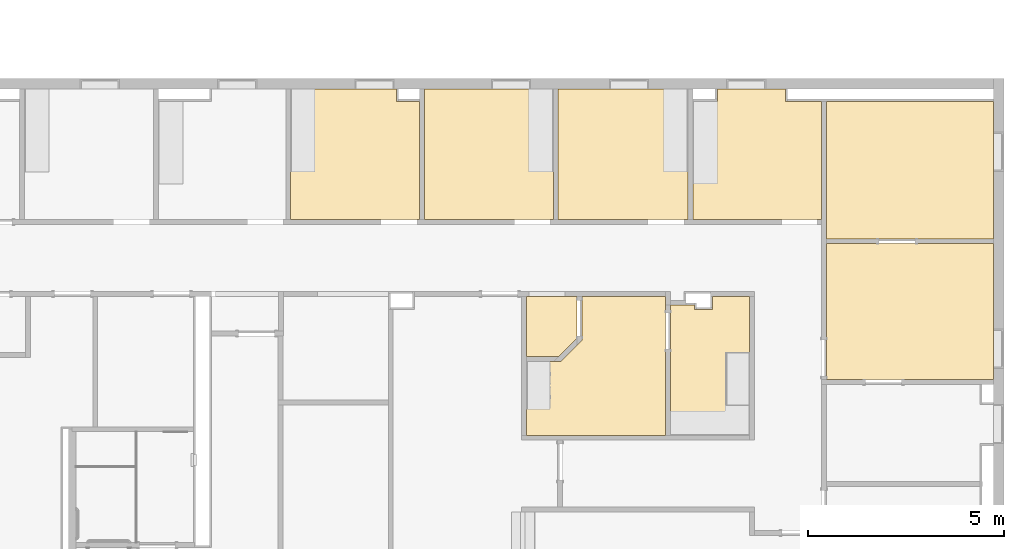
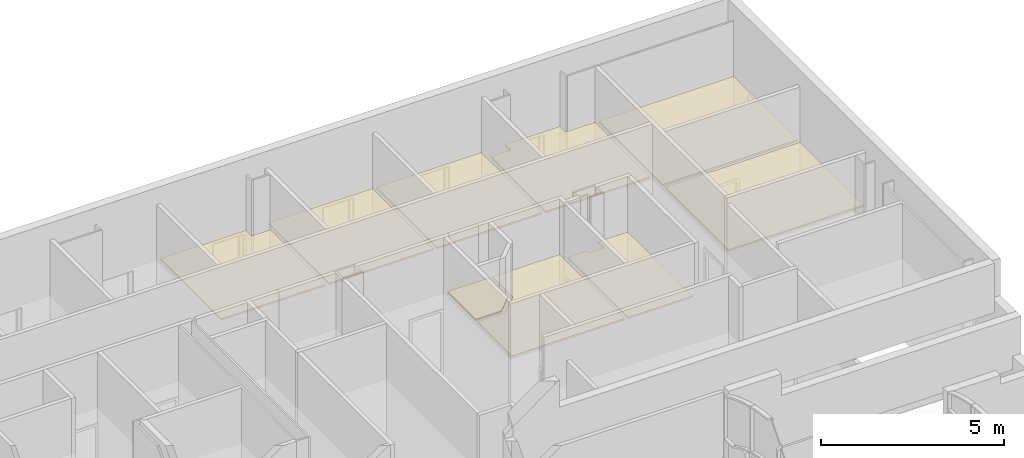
# One storey, part 31 of 47: 9 coverings.
"""IFC2X3 building model written with IfcOpenShell, lengths in metres."""

import ifcopenshell
import ifcopenshell.guid

model = None  # the IFC model being written
_history = None  # IfcOwnerHistory: only IFC2X3 demands one
_inside = {}  # id of a spatial element -> (the spatial element, [elements in it])
_under = {}  # id of a project, library or spatial element -> (it, [spatial elements below it])
_declared = {}  # id of a project -> (the project, [libraries it declares])
_typed = {}  # id of a type object -> (the type object, [elements of that type])
_made_of = {}  # id of a material, layer set ... -> (it, [elements and type objects made of it])


def new_model(schema):
    """Start an empty IFC model of exactly this schema.

    Asked for "IFC4X3", IfcOpenShell would pick the latest addendum, in which some entities
    have other attributes; the version numbers below select the first issue.
    IFC2X3 requires an IfcOwnerHistory on every rooted entity: one is made here for all.
    """
    global model, _history
    if schema == "IFC4X3":
        model = ifcopenshell.file(schema_version=(4, 3, 0, 0))
    else:
        model = ifcopenshell.file(schema=schema)
    _inside.clear()
    _under.clear()
    _declared.clear()
    _typed.clear()
    _made_of.clear()
    _history = None
    if model.schema == "IFC2X3":
        org = make("IfcOrganization", Name="unknown")
        user = make(
            "IfcPersonAndOrganization",
            ThePerson=make("IfcPerson", FamilyName="unknown"),
            TheOrganization=org,
        )
        app = make(
            "IfcApplication",
            ApplicationDeveloper=org,
            Version="unknown",
            ApplicationFullName="unknown",
            ApplicationIdentifier="unknown",
        )
        _history = make(
            "IfcOwnerHistory",
            OwningUser=user,
            OwningApplication=app,
            ChangeAction="ADDED",
            CreationDate=0,
        )
    return model


def make(cls, **values):
    """One entity of the class cls with the attributes given. An attribute that is None is left unset."""
    return model.create_entity(
        cls, **{name: value for name, value in values.items() if value is not None}
    )


def entity(cls, *values):
    """Any entity or typed value of the class cls, its attributes in the order of the schema. None: left unset."""
    e = model.create_entity(cls)
    for i, value in enumerate(values):
        if value is not None:
            e[i] = value
    return e


def rooted(cls, **values):
    """An entity with a GlobalId (a new one), such as an element, a storey or a relation."""
    return make(cls, GlobalId=ifcopenshell.guid.new(), OwnerHistory=_history, **values)


def si_unit(unit_type, name, prefix=None):
    """IfcSIUnit, for example si_unit("LENGTHUNIT", "METRE", prefix="MILLI")."""
    return make("IfcSIUnit", UnitType=unit_type, Prefix=prefix, Name=name)


def converted_unit(unit_type, name, factor, base, dimensions=None, offset=None):
    """IfcConversionBasedUnit, such as the inch: factor (a typed value) times the base unit."""
    return make(
        "IfcConversionBasedUnit"
        if offset is None
        else "IfcConversionBasedUnitWithOffset",
        ConversionOffset=offset,
        Dimensions=None
        if dimensions is None
        else entity("IfcDimensionalExponents", *dimensions),
        UnitType=unit_type,
        Name=name,
        ConversionFactor=make(
            "IfcMeasureWithUnit", ValueComponent=factor, UnitComponent=base
        ),
    )


def assignment(units):
    """IfcUnitAssignment: the units of a project."""
    return None if units is None else make("IfcUnitAssignment", Units=units)


def point(xyz):
    """IfcCartesianPoint."""
    return None if xyz is None else make("IfcCartesianPoint", Coordinates=xyz)


def direction(xyz):
    """IfcDirection."""
    return None if xyz is None else make("IfcDirection", DirectionRatios=xyz)


def frame(location, z_axis=None, x_axis=None):
    """IfcAxis2Placement3D, a coordinate frame: its origin and axes. An axis left out is left unset."""
    return make(
        "IfcAxis2Placement3D",
        Location=point(location),
        Axis=direction(z_axis),
        RefDirection=direction(x_axis),
    )


def origin():
    """The frame at (0, 0, 0) with its axes left unset."""
    return frame((0.0, 0.0, 0.0))


def place(relative_to, where):
    """IfcLocalPlacement: puts the frame where relative to a parent placement (None: the world)."""
    return make(
        "IfcLocalPlacement", PlacementRelTo=relative_to, RelativePlacement=where
    )


def context(
    kind, dimensions, precision=None, world=None, true_north=None, identifier=None
):
    """IfcGeometricRepresentationContext, for example the 3D "Model" context."""
    return make(
        "IfcGeometricRepresentationContext",
        ContextIdentifier=identifier,
        ContextType=kind,
        CoordinateSpaceDimension=dimensions,
        Precision=precision,
        WorldCoordinateSystem=world,
        TrueNorth=true_north,
    )


def project(units=None, contexts=None):
    """IfcProject with its units and contexts."""
    return rooted(
        "IfcProject",
        Name="project",
        RepresentationContexts=contexts,
        UnitsInContext=assignment(units),
    )


def spatial(cls, under=None, at=None, **own):
    """A site, building, storey or space (cls), placed at a placement, below another one or the project."""
    s = rooted(cls, ObjectPlacement=at, **own)
    if under is not None:
        _under.setdefault(under.id(), (under, []))[1].append(s)
    return s


def faces_of(points, faces, orient=None, outer=None):
    """IfcFace entities. A face is a list of loops; a loop is a list of indices into points, from 0.

    orient and outer hold one flag for each loop. By default every Orientation is true, the
    first loop of a face is its IfcFaceOuterBound and the others are IfcFaceBound.
    """
    made = []
    for i, loops in enumerate(faces):
        bounds = []
        for j, loop in enumerate(loops):
            is_outer = j == 0 if outer is None else outer[i][j]
            bounds.append(
                make(
                    "IfcFaceOuterBound" if is_outer else "IfcFaceBound",
                    Bound=make("IfcPolyLoop", Polygon=[points[k] for k in loop]),
                    Orientation=True if orient is None else orient[i][j],
                )
            )
        made.append(make("IfcFace", Bounds=bounds))
    return made


def face_set(faces, orient=None, outer=None):
    """The faces of one IfcConnectedFaceSet. surface_model builds it on its shared points."""
    return ("IfcConnectedFaceSet", faces, orient, outer)


def surface_model(cls, points, shells):
    """IfcFaceBasedSurfaceModel or IfcShellBasedSurfaceModel (cls): surfaces that need not close."""
    shared = [point(p) for p in points]
    made = [make(c, CfsFaces=faces_of(shared, fs, o, b)) for c, fs, o, b in shells]
    if cls == "IfcFaceBasedSurfaceModel":
        return make(cls, FbsmFaces=made)
    return make(cls, SbsmBoundary=made)


def shape(context_of_items, identifier, shape_type, items):
    """IfcShapeRepresentation: the items that make up one representation, for example the "Body"."""
    return make(
        "IfcShapeRepresentation",
        ContextOfItems=context_of_items,
        RepresentationIdentifier=identifier,
        RepresentationType=shape_type,
        Items=items,
    )


def material(Name=None, Category=None):
    """IfcMaterial."""
    return make("IfcMaterial", Name=Name, Category=Category)


def layer(
    of_material, thickness, ventilated=None, Name=None, Category=None, Priority=None
):
    """IfcMaterialLayer: one layer of a wall or slab, of a material (None: an air gap)."""
    return make(
        "IfcMaterialLayer",
        Material=of_material,
        LayerThickness=thickness,
        IsVentilated=ventilated,
        Name=Name,
        Category=Category,
        Priority=Priority,
    )


def layer_set(layers, Name=None):
    """IfcMaterialLayerSet."""
    return make("IfcMaterialLayerSet", MaterialLayers=layers, LayerSetName=Name)


def layer_usage(for_layer_set, set_direction, sense, offset, extent=None):
    """IfcMaterialLayerSetUsage: how a layer set lies in its element."""
    return make(
        "IfcMaterialLayerSetUsage",
        ForLayerSet=for_layer_set,
        LayerSetDirection=set_direction,
        DirectionSense=sense,
        OffsetFromReferenceLine=offset,
        ReferenceExtent=extent,
    )


def made_of(thing, what):
    """Note that an element or type object is made of a material, layer set ...; save() writes the relation."""
    if what is not None:
        _made_of.setdefault(what.id(), (what, []))[1].append(thing)
    return thing


def element(
    cls,
    number,
    at=None,
    inside=None,
    cuts=None,
    type_object=None,
    material=None,
    context=None,
    identifier="Body",
    shape_type=None,
    held_by="IfcProductDefinitionShape",
    body=None,
    shapes=None,
    **own,
):
    """One element of the class cls, such as IfcWall. Its Tag is "e" and its number.

    at: its placement. inside: the storey or other place that contains it. cuts: it is an
    opening in that element (IfcRelVoidsElement). A single representation is given by context,
    identifier, shape_type and body (its items); several are given by shapes. held_by: the class
    of the entity that holds the representations. save() writes the other relations.
    """
    e = rooted(cls, Tag="e%d" % number, ObjectPlacement=at, **own)
    if body is not None:
        shapes = [shape(context, identifier, shape_type, body)]
    if shapes is not None:
        e.Representation = make(held_by, Representations=shapes)
    if inside is not None:
        _inside.setdefault(inside.id(), (inside, []))[1].append(e)
    if cuts is not None:
        rooted(
            "IfcRelVoidsElement", RelatingBuildingElement=cuts, RelatedOpeningElement=e
        )
    if type_object is not None:
        _typed.setdefault(type_object.id(), (type_object, []))[1].append(e)
    return made_of(e, material)


def aggregate(whole, parts):
    """IfcRelAggregates: a whole, such as a stair, and the parts it consists of."""
    return rooted("IfcRelAggregates", RelatingObject=whole, RelatedObjects=parts)


def save(model, path):
    """Write the relations noted so far, then the file.

    IfcRelAggregates (storeys below a building ...), IfcRelContainedInSpatialStructure (elements
    in a storey), IfcRelDefinesByType, IfcRelAssociatesMaterial and IfcRelDeclares: one each for
    every whole, place, type object, material and project.
    """
    for whole, parts in _under.values():
        aggregate(whole, parts)
    for where, things in _inside.values():
        rooted(
            "IfcRelContainedInSpatialStructure",
            RelatedElements=things,
            RelatingStructure=where,
        )
    for kind, things in _typed.values():
        rooted("IfcRelDefinesByType", RelatedObjects=things, RelatingType=kind)
    for what, things in _made_of.values():
        rooted("IfcRelAssociatesMaterial", RelatedObjects=things, RelatingMaterial=what)
    for by, libraries in _declared.values():
        rooted("IfcRelDeclares", RelatingContext=by, RelatedDefinitions=libraries)
    model.write(path)


model = new_model("IFC2X3")

# Units and contexts
model_context = context("Model", 3, precision=1e-09, world=origin())
plan_context = context("Plan", 3, precision=1e-09, world=origin())
ifc_project = project(units=[si_unit("LENGTHUNIT", "METRE"), si_unit("AREAUNIT", "SQUARE_METRE"), si_unit("VOLUMEUNIT", "CUBIC_METRE"), converted_unit("PLANEANGLEUNIT", "DEGREE", entity("IfcRatioMeasure", 0.01745329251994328), si_unit("PLANEANGLEUNIT", "RADIAN"), dimensions=[0, 0, 0, 0, 0, 0, 0]), si_unit("TIMEUNIT", "SECOND")], contexts=[model_context, plan_context])

# Site, building, storey
site_placement = place(None, origin())
site = spatial("IfcSite", under=ifc_project, at=site_placement, Name="Default", CompositionType="ELEMENT")
building_placement = place(site_placement, origin())
building = spatial("IfcBuilding", under=site, at=building_placement, CompositionType="ELEMENT")
storey_placement = place(building_placement, frame((0.0, 0.0, 4.570000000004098)))
storey = spatial("IfcBuildingStorey", under=building, at=storey_placement, Name="Second Floor", CompositionType="ELEMENT", Elevation=4.570000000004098)

# Coverings
ifc_material_1 = material(Name="Default")
ifc_layer_1 = layer(ifc_material_1, 0.03599999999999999)
ifc_material_2 = material(Name="Ceiling Tile 600 x 600")
ifc_layer_2 = layer(ifc_material_2, 0.016)
ifc_layer_set = layer_set([ifc_layer_1, ifc_layer_2], Name="Compound Ceiling:ACT 600 x 600mm Grid")
ifc_layer_usage_1 = layer_usage(ifc_layer_set, "AXIS3", "NEGATIVE", 0.0)
covering_1_placement = place(storey_placement, origin())
element("IfcCovering", 1, at=covering_1_placement, inside=storey, material=ifc_layer_usage_1, Name="Compound Ceiling:ACT 600 x 600mm Grid", ObjectType="Compound Ceiling:ACT 600 x 600mm Grid", PredefinedType="CEILING", context=model_context, shape_type="SurfaceModel", body=[
    surface_model("IfcFaceBasedSurfaceModel", [(-17.8100000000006, 46.87843871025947, 2.732000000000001), (-17.81000000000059, 50.20299999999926, 2.732000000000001), (-15.10997500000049, 50.20299999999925, 2.732000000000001), (-15.10997500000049, 49.8944387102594, 2.732000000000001), (-14.52400000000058, 49.8944387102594, 2.732000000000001), (-14.52400000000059, 46.87843871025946, 2.732000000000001), (-15.50660000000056, 46.87843871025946, 2.732000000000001), (-17.8100000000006, 46.87843871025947, 2.680000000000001), (-17.81000000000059, 50.20299999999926, 2.680000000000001), (-15.10997500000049, 50.20299999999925, 2.680000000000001), (-15.10997500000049, 49.8944387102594, 2.680000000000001), (-14.52400000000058, 49.8944387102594, 2.680000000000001), (-14.52400000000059, 46.87843871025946, 2.680000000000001), (-15.50660000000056, 46.87843871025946, 2.680000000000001)], [face_set([[[0, 1, 2, 3, 4, 5, 6]], [[7, 8, 9, 10, 11, 12, 13]], [[6, 0, 7, 13]], [[5, 6, 13, 12]], [[4, 5, 12, 11]], [[3, 10, 11, 4]], [[2, 3, 10, 9]], [[1, 8, 9, 2]], [[0, 7, 8, 1]]])]),
])
ifc_layer_usage_2 = layer_usage(ifc_layer_set, "AXIS3", "NEGATIVE", 0.0)
covering_2_placement = place(storey_placement, origin())
element("IfcCovering", 2, at=covering_2_placement, inside=storey, material=ifc_layer_usage_2, Name="Compound Ceiling:ACT 600 x 600mm Grid", ObjectType="Compound Ceiling:ACT 600 x 600mm Grid", PredefinedType="CEILING", context=model_context, shape_type="SurfaceModel", body=[
    surface_model("IfcFaceBasedSurfaceModel", [(-14.40000000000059, 46.87843871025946, 2.732000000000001), (-14.40000000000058, 50.20299999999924, 2.732000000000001), (-11.11400000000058, 50.20299999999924, 2.732000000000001), (-11.11400000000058, 46.87843871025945, 2.732000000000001), (-12.09660000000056, 46.87843871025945, 2.732000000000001), (-14.40000000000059, 46.87843871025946, 2.680000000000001), (-14.40000000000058, 50.20299999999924, 2.680000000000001), (-11.11400000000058, 50.20299999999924, 2.680000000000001), (-11.11400000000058, 46.87843871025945, 2.680000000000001), (-12.09660000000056, 46.87843871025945, 2.680000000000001)], [face_set([[[0, 1, 2, 3, 4]], [[5, 6, 7, 8, 9]], [[4, 0, 5, 9]], [[3, 4, 9, 8]], [[2, 3, 8, 7]], [[1, 6, 7, 2]], [[0, 5, 6, 1]]])]),
])
ifc_layer_usage_3 = layer_usage(ifc_layer_set, "AXIS3", "NEGATIVE", 0.0)
covering_3_placement = place(storey_placement, origin())
element("IfcCovering", 3, at=covering_3_placement, inside=storey, material=ifc_layer_usage_3, Name="Compound Ceiling:ACT 600 x 600mm Grid", ObjectType="Compound Ceiling:ACT 600 x 600mm Grid", PredefinedType="CEILING", context=model_context, shape_type="SurfaceModel", body=[
    surface_model("IfcFaceBasedSurfaceModel", [(-10.99000000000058, 46.87843871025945, 2.732000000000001), (-10.99000000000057, 50.20299999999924, 2.732000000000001), (-7.680000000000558, 50.20299999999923, 2.732000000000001), (-7.680000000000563, 46.87843871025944, 2.732000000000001), (-7.780000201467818, 46.87843871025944, 2.732000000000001), (-8.696600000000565, 46.87843871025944, 2.732000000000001), (-10.99000000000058, 46.87843871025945, 2.680000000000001), (-10.99000000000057, 50.20299999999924, 2.680000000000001), (-7.680000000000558, 50.20299999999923, 2.680000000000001), (-7.680000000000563, 46.87843871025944, 2.680000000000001), (-7.780000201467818, 46.87843871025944, 2.680000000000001), (-8.696600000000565, 46.87843871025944, 2.680000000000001)], [face_set([[[0, 1, 2, 3, 4, 5]], [[6, 7, 8, 9, 10, 11]], [[5, 0, 6, 11]], [[4, 5, 11, 10]], [[3, 4, 10, 9]], [[2, 3, 9, 8]], [[1, 7, 8, 2]], [[0, 6, 7, 1]]])]),
])
ifc_layer_usage_4 = layer_usage(ifc_layer_set, "AXIS3", "NEGATIVE", 0.0)
covering_4_placement = place(storey_placement, origin())
element("IfcCovering", 4, at=covering_4_placement, inside=storey, material=ifc_layer_usage_4, Name="Compound Ceiling:ACT 600 x 600mm Grid", ObjectType="Compound Ceiling:ACT 600 x 600mm Grid", PredefinedType="CEILING", context=model_context, shape_type="SurfaceModel", body=[
    surface_model("IfcFaceBasedSurfaceModel", [(-6.93100000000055, 50.20299999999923, 2.732000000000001), (-6.93100000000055, 49.89443871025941, 2.732000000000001), (-7.556000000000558, 49.89443871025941, 2.732000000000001), (-7.556000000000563, 46.87843871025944, 2.732000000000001), (-5.286600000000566, 46.87843871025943, 2.732000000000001), (-4.385984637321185, 46.87843871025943, 2.732000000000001), (-4.270000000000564, 46.87843871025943, 2.732000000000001), (-4.270000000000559, 49.89443871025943, 2.732000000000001), (-5.190000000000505, 49.89443871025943, 2.732000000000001), (-5.190000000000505, 50.20299999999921, 2.732000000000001), (-6.931000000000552, 50.20299999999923, 2.680000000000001), (-5.190000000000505, 50.20299999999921, 2.680000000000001), (-5.190000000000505, 49.89443871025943, 2.680000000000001), (-4.270000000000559, 49.89443871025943, 2.680000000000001), (-4.270000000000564, 46.87843871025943, 2.680000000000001), (-4.385984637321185, 46.87843871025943, 2.680000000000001), (-5.286600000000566, 46.87843871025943, 2.680000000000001), (-7.556000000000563, 46.87843871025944, 2.680000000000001), (-7.556000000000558, 49.89443871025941, 2.680000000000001), (-6.93100000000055, 49.89443871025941, 2.680000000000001)], [face_set([[[0, 1, 2, 3, 4, 5, 6, 7, 8, 9]], [[10, 11, 12, 13, 14, 15, 16, 17, 18, 19]], [[2, 18, 19, 1]], [[3, 17, 18, 2]], [[4, 3, 17, 16]], [[5, 4, 16, 15]], [[6, 5, 15, 14]], [[7, 6, 14, 13]], [[8, 12, 13, 7]], [[9, 8, 12, 11]], [[0, 10, 11, 9]], [[1, 19, 10, 0]]])]),
])
ifc_layer_usage_5 = layer_usage(ifc_layer_set, "AXIS3", "NEGATIVE", 0.0)
covering_5_placement = place(storey_placement, origin())
element("IfcCovering", 5, at=covering_5_placement, inside=storey, material=ifc_layer_usage_5, Name="Compound Ceiling:ACT 600 x 600mm Grid", ObjectType="Compound Ceiling:ACT 600 x 600mm Grid", PredefinedType="CEILING", context=model_context, shape_type="SurfaceModel", body=[
    surface_model("IfcFaceBasedSurfaceModel", [(0.1129999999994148, 49.89443871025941, 2.732000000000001), (0.1129999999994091, 46.3884387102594, 2.732000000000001), (-4.146000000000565, 46.38843871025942, 2.732000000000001), (-4.146000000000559, 49.89443871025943, 2.732000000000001), (0.1129999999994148, 49.89443871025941, 2.680000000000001), (0.1129999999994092, 46.3884387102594, 2.680000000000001), (-4.146000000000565, 46.38843871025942, 2.680000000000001), (-4.146000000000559, 49.89443871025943, 2.680000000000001)], [face_set([[[0, 1, 2, 3]], [[4, 5, 6, 7]], [[2, 6, 7, 3]], [[1, 2, 6, 5]], [[0, 1, 5, 4]], [[3, 7, 4, 0]]])]),
])
ifc_layer_usage_6 = layer_usage(ifc_layer_set, "AXIS3", "NEGATIVE", 0.0)
covering_6_placement = place(storey_placement, origin())
element("IfcCovering", 6, at=covering_6_placement, inside=storey, material=ifc_layer_usage_6, Name="Compound Ceiling:ACT 600 x 600mm Grid", ObjectType="Compound Ceiling:ACT 600 x 600mm Grid", PredefinedType="CEILING", context=model_context, shape_type="SurfaceModel", body=[
    surface_model("IfcFaceBasedSurfaceModel", [(-4.146000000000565, 46.26443871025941, 2.732000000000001), (0.1129999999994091, 46.26443871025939, 2.732000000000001), (0.1129999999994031, 42.79443871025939, 2.732000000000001), (-4.14600000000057, 42.79443871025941, 2.732000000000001), (-4.146000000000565, 46.26443871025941, 2.680000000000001), (0.1129999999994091, 46.26443871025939, 2.680000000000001), (0.1129999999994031, 42.79443871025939, 2.680000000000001), (-4.14600000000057, 42.79443871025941, 2.680000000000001)], [face_set([[[0, 1, 2, 3]], [[4, 5, 6, 7]], [[3, 7, 4, 0]], [[2, 3, 7, 6]], [[1, 2, 6, 5]], [[0, 4, 5, 1]]])]),
])
ifc_layer_usage_7 = layer_usage(ifc_layer_set, "AXIS3", "NEGATIVE", 0.0)
covering_7_placement = place(storey_placement, origin())
element("IfcCovering", 7, at=covering_7_placement, inside=storey, material=ifc_layer_usage_7, Name="Compound Ceiling:ACT 600 x 600mm Grid", ObjectType="Compound Ceiling:ACT 600 x 600mm Grid", PredefinedType="CEILING", context=model_context, shape_type="SurfaceModel", body=[
    surface_model("IfcFaceBasedSurfaceModel", [(-10.37997086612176, 43.80884532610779, 2.732000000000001), (-10.93151415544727, 43.25730203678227, 2.732000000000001), (-11.79600000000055, 43.25730203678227, 2.732000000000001), (-11.79600000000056, 41.37843871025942, 2.732000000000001), (-8.254000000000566, 41.3784387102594, 2.732000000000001), (-8.254000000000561, 44.75743885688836, 2.732000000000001), (-8.254000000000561, 44.9204387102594, 2.732000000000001), (-10.37997086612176, 44.9204387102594, 2.732000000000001), (-10.37997086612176, 43.80884532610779, 2.680000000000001), (-10.37997086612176, 44.9204387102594, 2.680000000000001), (-8.254000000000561, 44.9204387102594, 2.680000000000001), (-8.254000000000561, 44.75743885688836, 2.680000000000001), (-8.254000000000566, 41.3784387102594, 2.680000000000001), (-11.79600000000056, 41.37843871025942, 2.680000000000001), (-11.79600000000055, 43.25730203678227, 2.680000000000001), (-10.93151415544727, 43.25730203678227, 2.680000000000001)], [face_set([[[0, 1, 2, 3, 4, 5, 6, 7]], [[8, 9, 10, 11, 12, 13, 14, 15]], [[1, 15, 8, 0]], [[2, 14, 15, 1]], [[3, 13, 14, 2]], [[4, 3, 13, 12]], [[5, 4, 12, 11]], [[6, 5, 11, 10]], [[7, 9, 10, 6]], [[0, 8, 9, 7]]])]),
])
ifc_layer_usage_8 = layer_usage(ifc_layer_set, "AXIS3", "NEGATIVE", 0.0)
covering_8_placement = place(storey_placement, origin())
element("IfcCovering", 8, at=covering_8_placement, inside=storey, material=ifc_layer_usage_8, Name="Compound Ceiling:ACT 600 x 600mm Grid", ObjectType="Compound Ceiling:ACT 600 x 600mm Grid", PredefinedType="CEILING", context=model_context, shape_type="SurfaceModel", body=[
    surface_model("IfcFaceBasedSurfaceModel", [(-10.81500000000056, 44.92043871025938, 2.732000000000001), (-10.50397086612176, 44.9204387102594, 2.732000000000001), (-10.50397086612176, 43.86020780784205, 2.732000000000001), (-10.98287663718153, 43.38130203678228, 2.732000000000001), (-11.79600000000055, 43.38130203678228, 2.732000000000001), (-11.79600000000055, 44.92043871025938, 2.732000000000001), (-10.81500000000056, 44.92043871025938, 2.680000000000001), (-10.50397086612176, 44.9204387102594, 2.680000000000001), (-10.50397086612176, 43.86020780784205, 2.680000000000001), (-10.98287663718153, 43.38130203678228, 2.680000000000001), (-11.79600000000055, 43.38130203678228, 2.680000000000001), (-11.79600000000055, 44.92043871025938, 2.680000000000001)], [face_set([[[0, 1, 2, 3, 4, 5]], [[6, 7, 8, 9, 10, 11]], [[5, 11, 6, 0]], [[4, 10, 11, 5]], [[3, 4, 10, 9]], [[2, 3, 9, 8]], [[1, 2, 8, 7]], [[0, 6, 7, 1]]])]),
])
ifc_layer_usage_9 = layer_usage(ifc_layer_set, "AXIS3", "NEGATIVE", 0.0)
covering_9_placement = place(storey_placement, origin())
element("IfcCovering", 9, at=covering_9_placement, inside=storey, material=ifc_layer_usage_9, Name="Compound Ceiling:ACT 600 x 600mm Grid", ObjectType="Compound Ceiling:ACT 600 x 600mm Grid", PredefinedType="CEILING", context=model_context, shape_type="SurfaceModel", body=[
    surface_model("IfcFaceBasedSurfaceModel", [(-7.510000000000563, 44.69543885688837, 2.732000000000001), (-7.510000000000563, 44.58443871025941, 2.732000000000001), (-7.050000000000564, 44.58443871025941, 2.732000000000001), (-7.050000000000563, 44.9204387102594, 2.732000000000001), (-6.10400000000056, 44.9204387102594, 2.732000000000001), (-6.104000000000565, 41.37843871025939, 2.732000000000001), (-8.130000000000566, 41.3784387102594, 2.732000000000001), (-8.13000000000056, 44.69543885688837, 2.732000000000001), (-7.510000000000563, 44.69543885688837, 2.680000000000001), (-8.13000000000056, 44.69543885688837, 2.680000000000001), (-8.130000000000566, 41.3784387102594, 2.680000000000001), (-6.104000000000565, 41.37843871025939, 2.680000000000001), (-6.10400000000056, 44.9204387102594, 2.680000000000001), (-7.050000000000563, 44.9204387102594, 2.680000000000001), (-7.050000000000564, 44.58443871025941, 2.680000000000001), (-7.510000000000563, 44.58443871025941, 2.680000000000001)], [face_set([[[0, 1, 2, 3, 4, 5, 6, 7]], [[8, 9, 10, 11, 12, 13, 14, 15]], [[7, 9, 8, 0]], [[6, 10, 9, 7]], [[5, 6, 10, 11]], [[4, 5, 11, 12]], [[3, 13, 12, 4]], [[2, 14, 13, 3]], [[1, 15, 14, 2]], [[0, 1, 15, 8]]])]),
])

save(model, "model.ifc")
